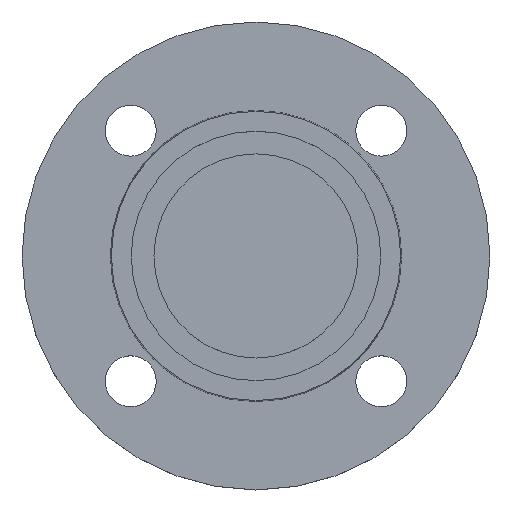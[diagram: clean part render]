
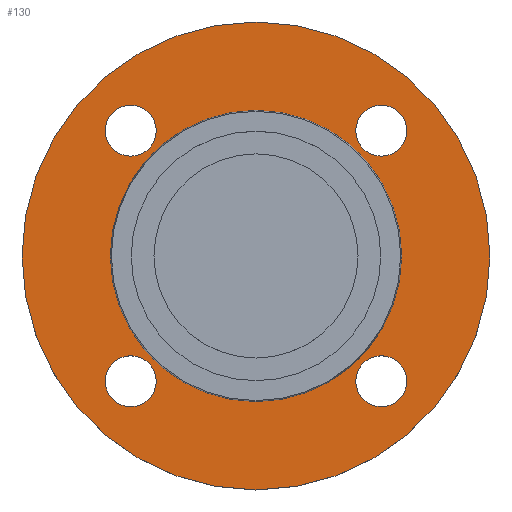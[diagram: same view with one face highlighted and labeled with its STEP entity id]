
A CAD part, top view. The second image highlights one B-rep face of the part: STEP entity #130.
In plain terms, the highlighted planar face has unit normal (0, 0, 1).
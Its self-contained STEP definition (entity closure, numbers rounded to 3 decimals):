
#8 = CARTESIAN_POINT ( 'NONE',  ( -35.194, 44.194, -2. ) ) ;
#16 = CARTESIAN_POINT ( 'NONE',  ( -82.5, 0., -2. ) ) ;
#39 = DIRECTION ( 'NONE',  ( 1., 0., 0. ) ) ;
#41 = DIRECTION ( 'NONE',  ( 0., 0., -1. ) ) ;
#42 = CARTESIAN_POINT ( 'NONE',  ( 44.194, -44.194, -2. ) ) ;
#48 = CARTESIAN_POINT ( 'NONE',  ( -51.353, 0., -2. ) ) ;
#64 = AXIS2_PLACEMENT_3D ( 'NONE', #90, #89, #87 ) ;
#72 = DIRECTION ( 'NONE',  ( 1., 0., 0. ) ) ;
#75 = DIRECTION ( 'NONE',  ( 0., 0., -1. ) ) ;
#76 = CARTESIAN_POINT ( 'NONE',  ( -44.194, 44.194, -2. ) ) ;
#78 = CIRCLE ( 'NONE', #664, 82.5 ) ;
#80 = CIRCLE ( 'NONE', #649, 9. ) ;
#87 = DIRECTION ( 'NONE',  ( 1., 0., 0. ) ) ;
#89 = DIRECTION ( 'NONE',  ( 0., 0., -1. ) ) ;
#90 = CARTESIAN_POINT ( 'NONE',  ( -44.194, 44.194, -2. ) ) ;
#101 = CIRCLE ( 'NONE', #657, 9. ) ;
#130 = ADVANCED_FACE ( 'NONE', ( #212, #211, #206, #205, #202, #201 ), #200, .T. ) ;
#136 = CARTESIAN_POINT ( 'NONE',  ( -44.194, -44.194, -2. ) ) ;
#137 = DIRECTION ( 'NONE',  ( 0., 0., -1. ) ) ;
#149 = DIRECTION ( 'NONE',  ( -1., 0., 0. ) ) ;
#150 = DIRECTION ( 'NONE',  ( 0., 0., -1. ) ) ;
#154 = EDGE_CURVE ( 'NONE', #571, #627, #504, .T. ) ;
#157 = CARTESIAN_POINT ( 'NONE',  ( 0., 0., -2. ) ) ;
#161 = CIRCLE ( 'NONE', #64, 9. ) ;
#165 = DIRECTION ( 'NONE',  ( 1., 0., 0. ) ) ;
#166 = DIRECTION ( 'NONE',  ( 0., 0., -1. ) ) ;
#168 = CARTESIAN_POINT ( 'NONE',  ( 44.194, 44.194, -2. ) ) ;
#175 = EDGE_CURVE ( 'NONE', #381, #600, #78, .T. ) ;
#179 = DIRECTION ( 'NONE',  ( 1., 0., 0. ) ) ;
#181 = AXIS2_PLACEMENT_3D ( 'NONE', #76, #75, #72 ) ;
#183 = AXIS2_PLACEMENT_3D ( 'NONE', #168, #166, #165 ) ;
#189 = DIRECTION ( 'NONE',  ( 1., 0., 0. ) ) ;
#197 = DIRECTION ( 'NONE',  ( 0., 0., 1. ) ) ;
#199 = CARTESIAN_POINT ( 'NONE',  ( 51.353, 0., -2. ) ) ;
#200 = PLANE ( 'NONE',  #549 ) ;
#201 = FACE_OUTER_BOUND ( 'NONE', #424, .T. ) ;
#202 = FACE_BOUND ( 'NONE', #377, .T. ) ;
#205 = FACE_BOUND ( 'NONE', #326, .T. ) ;
#206 = FACE_BOUND ( 'NONE', #371, .T. ) ;
#210 = CARTESIAN_POINT ( 'NONE',  ( -53.194, 44.194, -2. ) ) ;
#211 = FACE_BOUND ( 'NONE', #368, .T. ) ;
#212 = FACE_BOUND ( 'NONE', #263, .T. ) ;
#213 = CARTESIAN_POINT ( 'NONE',  ( 53.194, 44.194, -2. ) ) ;
#221 = CARTESIAN_POINT ( 'NONE',  ( 82.5, 0., -2. ) ) ;
#225 = CARTESIAN_POINT ( 'NONE',  ( -53.194, -44.194, -2. ) ) ;
#229 = CARTESIAN_POINT ( 'NONE',  ( -35.194, -44.194, -2. ) ) ;
#233 = EDGE_CURVE ( 'NONE', #431, #628, #161, .T. ) ;
#236 = CARTESIAN_POINT ( 'NONE',  ( 35.194, -44.194, -2. ) ) ;
#242 = CARTESIAN_POINT ( 'NONE',  ( 51.353, 0., -2. ) ) ;
#252 = AXIS2_PLACEMENT_3D ( 'NONE', #382, #383, #385 ) ;
#255 = DIRECTION ( 'NONE',  ( 1., 0., 0. ) ) ;
#256 = DIRECTION ( 'NONE',  ( 0., 0., -1. ) ) ;
#259 = CARTESIAN_POINT ( 'NONE',  ( 44.194, 44.194, -2. ) ) ;
#263 = EDGE_LOOP ( 'NONE', ( #467, #575 ) ) ;
#267 = CARTESIAN_POINT ( 'NONE',  ( 35.194, 44.194, -2. ) ) ;
#270 = CARTESIAN_POINT ( 'NONE',  ( 53.194, -44.194, -2. ) ) ;
#271 = DIRECTION ( 'NONE',  ( -1., 0., 0. ) ) ;
#274 = EDGE_CURVE ( 'NONE', #628, #431, #653, .T. ) ;
#275 = DIRECTION ( 'NONE',  ( 0., 0., -1. ) ) ;
#276 = CARTESIAN_POINT ( 'NONE',  ( 0., 0., -2. ) ) ;
#314 = VERTEX_POINT ( 'NONE', #48 ) ;
#326 = EDGE_LOOP ( 'NONE', ( #580, #583 ) ) ;
#336 = DIRECTION ( 'NONE',  ( -1., 0., 0. ) ) ;
#337 = DIRECTION ( 'NONE',  ( 0., 0., -1. ) ) ;
#338 = CARTESIAN_POINT ( 'NONE',  ( 0., 0., -2. ) ) ;
#339 = DIRECTION ( 'NONE',  ( -1., 0., 0. ) ) ;
#341 = DIRECTION ( 'NONE',  ( 0., 0., -1. ) ) ;
#350 = CARTESIAN_POINT ( 'NONE',  ( 0., 0., -2. ) ) ;
#358 = CIRCLE ( 'NONE', #559, 9. ) ;
#368 = EDGE_LOOP ( 'NONE', ( #465, #468 ) ) ;
#369 = EDGE_CURVE ( 'NONE', #570, #594, #101, .T. ) ;
#371 = EDGE_LOOP ( 'NONE', ( #574, #563 ) ) ;
#377 = EDGE_LOOP ( 'NONE', ( #584, #586 ) ) ;
#381 = VERTEX_POINT ( 'NONE', #16 ) ;
#382 = CARTESIAN_POINT ( 'NONE',  ( 44.194, -44.194, -2. ) ) ;
#383 = DIRECTION ( 'NONE',  ( 0., 0., -1. ) ) ;
#385 = DIRECTION ( 'NONE',  ( 1., 0., 0. ) ) ;
#388 = CARTESIAN_POINT ( 'NONE',  ( -44.194, -44.194, -2. ) ) ;
#393 = DIRECTION ( 'NONE',  ( 0., 0., -1. ) ) ;
#396 = DIRECTION ( 'NONE',  ( 1., 0., 0. ) ) ;
#411 = AXIS2_PLACEMENT_3D ( 'NONE', #338, #337, #336 ) ;
#424 = EDGE_LOOP ( 'NONE', ( #587, #589 ) ) ;
#431 = VERTEX_POINT ( 'NONE', #8 ) ;
#432 = CIRCLE ( 'NONE', #411, 51.353 ) ;
#448 = EDGE_CURVE ( 'NONE', #598, #596, #609, .T. ) ;
#465 = ORIENTED_EDGE ( 'NONE', *, *, #665, .T. ) ;
#467 = ORIENTED_EDGE ( 'NONE', *, *, #369, .T. ) ;
#468 = ORIENTED_EDGE ( 'NONE', *, *, #448, .T. ) ;
#491 = AXIS2_PLACEMENT_3D ( 'NONE', #276, #275, #271 ) ;
#504 = CIRCLE ( 'NONE', #183, 9. ) ;
#522 = EDGE_CURVE ( 'NONE', #600, #381, #608, .T. ) ;
#524 = AXIS2_PLACEMENT_3D ( 'NONE', #350, #341, #339 ) ;
#530 = EDGE_CURVE ( 'NONE', #314, #593, #432, .T. ) ;
#549 = AXIS2_PLACEMENT_3D ( 'NONE', #199, #197, #189 ) ;
#553 = CIRCLE ( 'NONE', #491, 51.353 ) ;
#559 = AXIS2_PLACEMENT_3D ( 'NONE', #388, #393, #396 ) ;
#563 = ORIENTED_EDGE ( 'NONE', *, *, #274, .T. ) ;
#569 = EDGE_CURVE ( 'NONE', #593, #314, #553, .T. ) ;
#570 = VERTEX_POINT ( 'NONE', #270 ) ;
#571 = VERTEX_POINT ( 'NONE', #267 ) ;
#574 = ORIENTED_EDGE ( 'NONE', *, *, #233, .T. ) ;
#575 = ORIENTED_EDGE ( 'NONE', *, *, #663, .T. ) ;
#578 = EDGE_CURVE ( 'NONE', #627, #571, #80, .T. ) ;
#580 = ORIENTED_EDGE ( 'NONE', *, *, #578, .T. ) ;
#583 = ORIENTED_EDGE ( 'NONE', *, *, #154, .T. ) ;
#584 = ORIENTED_EDGE ( 'NONE', *, *, #530, .T. ) ;
#586 = ORIENTED_EDGE ( 'NONE', *, *, #569, .T. ) ;
#587 = ORIENTED_EDGE ( 'NONE', *, *, #522, .F. ) ;
#589 = ORIENTED_EDGE ( 'NONE', *, *, #175, .F. ) ;
#591 = AXIS2_PLACEMENT_3D ( 'NONE', #136, #137, #179 ) ;
#593 = VERTEX_POINT ( 'NONE', #242 ) ;
#594 = VERTEX_POINT ( 'NONE', #236 ) ;
#596 = VERTEX_POINT ( 'NONE', #229 ) ;
#598 = VERTEX_POINT ( 'NONE', #225 ) ;
#600 = VERTEX_POINT ( 'NONE', #221 ) ;
#608 = CIRCLE ( 'NONE', #524, 82.5 ) ;
#609 = CIRCLE ( 'NONE', #591, 9. ) ;
#627 = VERTEX_POINT ( 'NONE', #213 ) ;
#628 = VERTEX_POINT ( 'NONE', #210 ) ;
#649 = AXIS2_PLACEMENT_3D ( 'NONE', #259, #256, #255 ) ;
#653 = CIRCLE ( 'NONE', #181, 9. ) ;
#657 = AXIS2_PLACEMENT_3D ( 'NONE', #42, #41, #39 ) ;
#658 = CIRCLE ( 'NONE', #252, 9. ) ;
#663 = EDGE_CURVE ( 'NONE', #594, #570, #658, .T. ) ;
#664 = AXIS2_PLACEMENT_3D ( 'NONE', #157, #150, #149 ) ;
#665 = EDGE_CURVE ( 'NONE', #596, #598, #358, .T. ) ;
